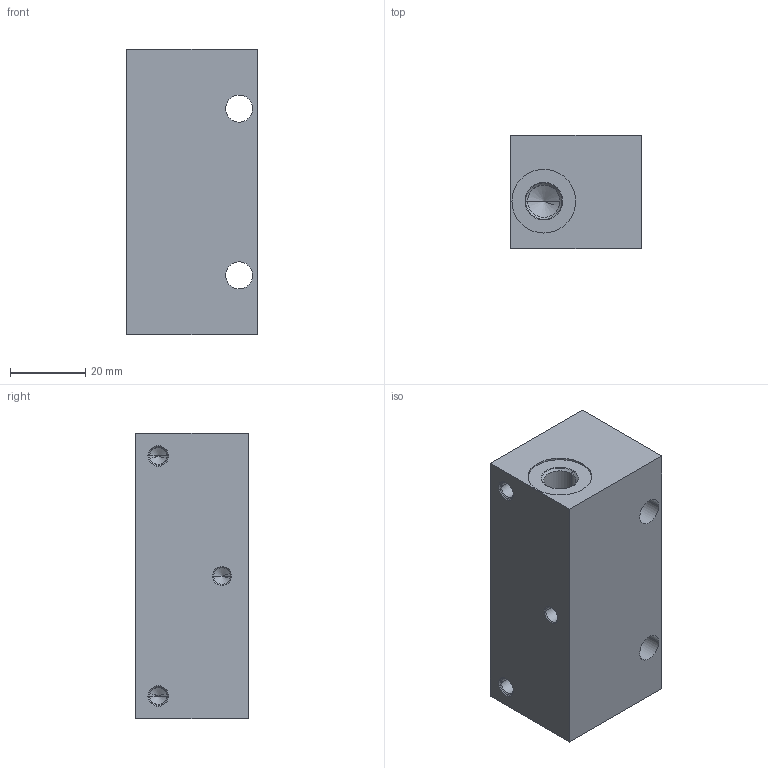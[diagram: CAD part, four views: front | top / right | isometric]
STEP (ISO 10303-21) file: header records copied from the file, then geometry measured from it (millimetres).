
FILE_DESCRIPTION((''),'2;1');
FILE_NAME('0641515_ASM','2023-07-20T11:29:05',('pietro.masciave'),(''),'CREO PARAMETRIC BY PTC INC, 2022281','CREO PARAMETRIC BY PTC INC, 2022281','');
FILE_SCHEMA(('CONFIG_CONTROL_DESIGN'));
Length unit declared in the file: millimetre
Products named in the file (4): 0641502; 0020504; 0015875; 0641515_ASM
Assembly tree (5 placements, depth 2):
  0641515_ASM
    0641502
    0020504  x2
    0015875  x2
Bounding box: 34.8 x 30 x 76 mm (x, y, z)
Volume: 74037.6 mm3; surface area: 16951.1 mm2
Topology: 5 solids, 14 shells, 115 faces, 274 edges, 167 vertices
Faces by surface type: cylinder 44, plane 35, cone 32, sphere 4
Entity records: 2856 total; most frequent: DIRECTION 548, CARTESIAN_POINT 465, ORIENTED_EDGE 396, AXIS2_PLACEMENT_3D 224, EDGE_CURVE 214, VERTEX_POINT 141, EDGE_LOOP 119, CIRCLE 114
